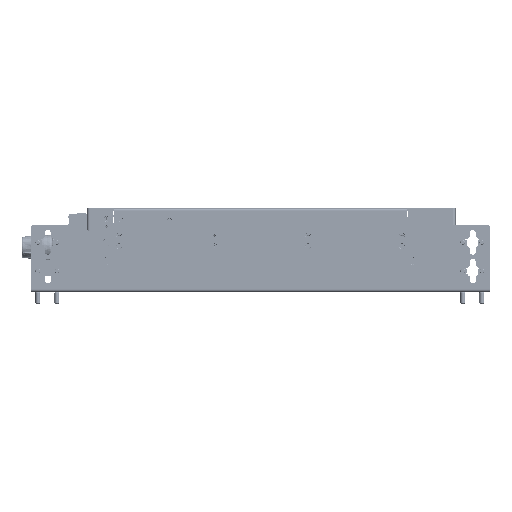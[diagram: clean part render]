
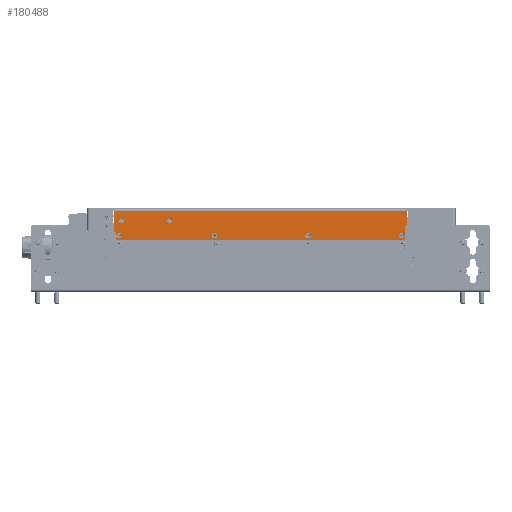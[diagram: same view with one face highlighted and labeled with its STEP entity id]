
A CAD part, front view. The second image highlights one B-rep face of the part: STEP entity #180488.
In plain terms, the highlighted planar face has unit normal (0, -1, 0) as drawn and (0, 1, 0) by its records, which use the part's own axes.
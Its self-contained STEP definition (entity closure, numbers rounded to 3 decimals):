
#11449=FACE_BOUND('',#29364,.T.);
#11450=FACE_BOUND('',#29365,.T.);
#11451=FACE_BOUND('',#29366,.T.);
#11452=FACE_BOUND('',#29367,.T.);
#11453=FACE_BOUND('',#29368,.T.);
#11454=FACE_BOUND('',#29369,.T.);
#12864=PLANE('',#192004);
#19485=FACE_OUTER_BOUND('',#29363,.T.);
#29363=EDGE_LOOP('',(#127640,#127641,#127642,#127643,#127644,#127645));
#29364=EDGE_LOOP('',(#127646));
#29365=EDGE_LOOP('',(#127647));
#29366=EDGE_LOOP('',(#127648));
#29367=EDGE_LOOP('',(#127649));
#29368=EDGE_LOOP('',(#127650));
#29369=EDGE_LOOP('',(#127651));
#40699=LINE('',#259429,#59156);
#40705=LINE('',#259445,#59162);
#40735=LINE('',#259563,#59192);
#40736=LINE('',#259567,#59193);
#59156=VECTOR('',#208956,10.);
#59162=VECTOR('',#208972,10.);
#59192=VECTOR('',#209106,10.);
#59193=VECTOR('',#209113,10.);
#77395=CIRCLE('',#191925,2.6);
#77396=CIRCLE('',#191927,2.6);
#77397=CIRCLE('',#191929,2.95);
#77398=CIRCLE('',#191931,2.95);
#77399=CIRCLE('',#191933,2.95);
#77400=CIRCLE('',#191935,2.95);
#77401=CIRCLE('',#191937,2.);
#77404=CIRCLE('',#191943,2.);
#83337=VERTEX_POINT('',#259392);
#83338=VERTEX_POINT('',#259396);
#83339=VERTEX_POINT('',#259400);
#83340=VERTEX_POINT('',#259404);
#83341=VERTEX_POINT('',#259408);
#83342=VERTEX_POINT('',#259412);
#83343=VERTEX_POINT('',#259416);
#83344=VERTEX_POINT('',#259417);
#83348=VERTEX_POINT('',#259427);
#83352=VERTEX_POINT('',#259439);
#83353=VERTEX_POINT('',#259443);
#83389=VERTEX_POINT('',#259562);
#100582=EDGE_CURVE('',#83337,#83337,#77395,.T.);
#100584=EDGE_CURVE('',#83338,#83338,#77396,.T.);
#100586=EDGE_CURVE('',#83339,#83339,#77397,.T.);
#100588=EDGE_CURVE('',#83340,#83340,#77398,.T.);
#100590=EDGE_CURVE('',#83341,#83341,#77399,.T.);
#100592=EDGE_CURVE('',#83342,#83342,#77400,.T.);
#100594=EDGE_CURVE('',#83343,#83344,#77401,.T.);
#100600=EDGE_CURVE('',#83348,#83343,#40699,.T.);
#100605=EDGE_CURVE('',#83352,#83348,#77404,.T.);
#100608=EDGE_CURVE('',#83353,#83352,#40705,.T.);
#100666=EDGE_CURVE('',#83353,#83389,#40735,.T.);
#100669=EDGE_CURVE('',#83344,#83389,#40736,.T.);
#127640=ORIENTED_EDGE('',*,*,#100594,.F.);
#127641=ORIENTED_EDGE('',*,*,#100600,.F.);
#127642=ORIENTED_EDGE('',*,*,#100605,.F.);
#127643=ORIENTED_EDGE('',*,*,#100608,.F.);
#127644=ORIENTED_EDGE('',*,*,#100666,.T.);
#127645=ORIENTED_EDGE('',*,*,#100669,.F.);
#127646=ORIENTED_EDGE('',*,*,#100582,.T.);
#127647=ORIENTED_EDGE('',*,*,#100584,.T.);
#127648=ORIENTED_EDGE('',*,*,#100586,.T.);
#127649=ORIENTED_EDGE('',*,*,#100588,.T.);
#127650=ORIENTED_EDGE('',*,*,#100590,.T.);
#127651=ORIENTED_EDGE('',*,*,#100592,.T.);
#180488=ADVANCED_FACE('',(#19485,#11449,#11450,#11451,#11452,#11453,#11454),
#12864,.T.);
#191925=AXIS2_PLACEMENT_3D('',#259393,#208916,#208917);
#191927=AXIS2_PLACEMENT_3D('',#259397,#208921,#208922);
#191929=AXIS2_PLACEMENT_3D('',#259401,#208926,#208927);
#191931=AXIS2_PLACEMENT_3D('',#259405,#208931,#208932);
#191933=AXIS2_PLACEMENT_3D('',#259409,#208936,#208937);
#191935=AXIS2_PLACEMENT_3D('',#259413,#208941,#208942);
#191937=AXIS2_PLACEMENT_3D('',#259418,#208946,#208947);
#191943=AXIS2_PLACEMENT_3D('',#259440,#208966,#208967);
#192004=AXIS2_PLACEMENT_3D('',#259575,#209125,#209126);
#208916=DIRECTION('center_axis',(0.,-1.,0.));
#208917=DIRECTION('ref_axis',(1.,0.,0.));
#208921=DIRECTION('center_axis',(0.,-1.,0.));
#208922=DIRECTION('ref_axis',(1.,0.,0.));
#208926=DIRECTION('center_axis',(0.,-1.,0.));
#208927=DIRECTION('ref_axis',(1.,0.,0.));
#208931=DIRECTION('center_axis',(0.,-1.,0.));
#208932=DIRECTION('ref_axis',(1.,0.,0.));
#208936=DIRECTION('center_axis',(0.,-1.,0.));
#208937=DIRECTION('ref_axis',(1.,0.,0.));
#208941=DIRECTION('center_axis',(0.,-1.,0.));
#208942=DIRECTION('ref_axis',(1.,0.,0.));
#208946=DIRECTION('center_axis',(0.,-1.,0.));
#208947=DIRECTION('ref_axis',(0.707,0.,-0.707));
#208956=DIRECTION('',(1.,0.,0.));
#208966=DIRECTION('center_axis',(0.,-1.,0.));
#208967=DIRECTION('ref_axis',(-0.707,0.,-0.707));
#208972=DIRECTION('',(0.,0.,-1.));
#209106=DIRECTION('',(1.,0.,0.));
#209113=DIRECTION('',(0.,0.,1.));
#209125=DIRECTION('center_axis',(0.,1.,0.));
#209126=DIRECTION('ref_axis',(1.,0.,0.));
#259392=CARTESIAN_POINT('',(152.45,63.2,-12.85));
#259393=CARTESIAN_POINT('Origin',(155.05,63.2,-12.85));
#259396=CARTESIAN_POINT('',(102.45,63.2,-12.85));
#259397=CARTESIAN_POINT('Origin',(105.05,63.2,-12.85));
#259400=CARTESIAN_POINT('',(-42.7,63.2,-28.5));
#259401=CARTESIAN_POINT('Origin',(-39.75,63.2,-28.5));
#259404=CARTESIAN_POINT('',(154.8,63.2,-28.5));
#259405=CARTESIAN_POINT('Origin',(157.75,63.2,-28.5));
#259408=CARTESIAN_POINT('',(55.3,63.2,-28.5));
#259409=CARTESIAN_POINT('Origin',(58.25,63.2,-28.5));
#259412=CARTESIAN_POINT('',(-140.7,63.2,-28.5));
#259413=CARTESIAN_POINT('Origin',(-137.75,63.2,-28.5));
#259416=CARTESIAN_POINT('',(161.25,63.2,-33.5));
#259417=CARTESIAN_POINT('',(163.25,63.2,-31.5));
#259418=CARTESIAN_POINT('Origin',(161.25,63.2,-31.5));
#259427=CARTESIAN_POINT('',(-141.25,63.2,-33.5));
#259429=CARTESIAN_POINT('',(-143.25,63.2,-33.5));
#259439=CARTESIAN_POINT('',(-143.25,63.2,-31.5));
#259440=CARTESIAN_POINT('Origin',(-141.25,63.2,-31.5));
#259443=CARTESIAN_POINT('',(-143.25,63.2,-2.5));
#259445=CARTESIAN_POINT('',(-143.25,63.2,-2.5));
#259562=CARTESIAN_POINT('',(163.25,63.2,-2.5));
#259563=CARTESIAN_POINT('',(10.,63.2,-2.5));
#259567=CARTESIAN_POINT('',(163.25,63.2,-0.332));
#259575=CARTESIAN_POINT('Origin',(10.,63.2,-16.916));
